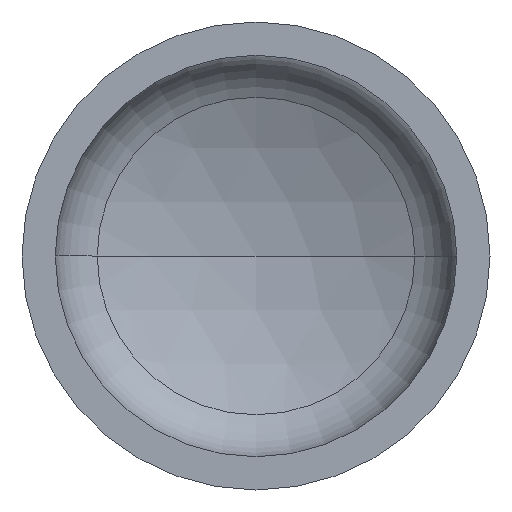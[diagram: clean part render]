
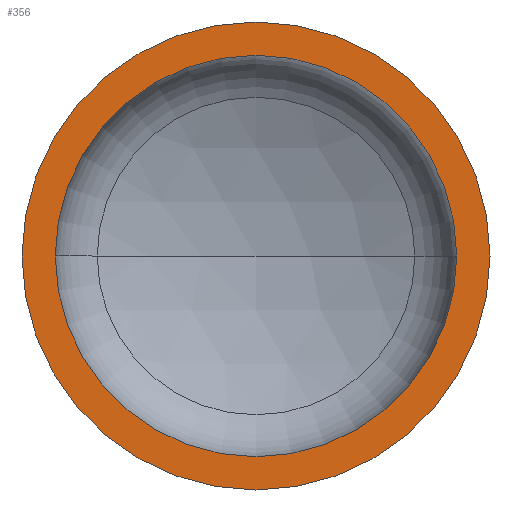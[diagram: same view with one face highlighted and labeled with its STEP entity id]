
A CAD part, front view. The second image highlights one B-rep face of the part: STEP entity #356.
In plain terms, the highlighted planar face has unit normal (0, -1, 0).
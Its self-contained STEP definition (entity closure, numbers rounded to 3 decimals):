
#2 = VERTEX_POINT ( 'NONE', #265 ) ;
#3 = ORIENTED_EDGE ( 'NONE', *, *, #303, .T. ) ;
#25 = AXIS2_PLACEMENT_3D ( 'NONE', #382, #319, #179 ) ;
#36 = VERTEX_POINT ( 'NONE', #289 ) ;
#40 = ORIENTED_EDGE ( 'NONE', *, *, #174, .T. ) ;
#47 = AXIS2_PLACEMENT_3D ( 'NONE', #186, #191, #131 ) ;
#49 = EDGE_LOOP ( 'NONE', ( #52, #86 ) ) ;
#52 = ORIENTED_EDGE ( 'NONE', *, *, #353, .F. ) ;
#53 = DIRECTION ( 'NONE',  ( 1., 0., 0. ) ) ;
#57 = DIRECTION ( 'NONE',  ( 0., -1., 0. ) ) ;
#62 = EDGE_LOOP ( 'NONE', ( #3, #40 ) ) ;
#70 = CARTESIAN_POINT ( 'NONE',  ( 0., 0., 0. ) ) ;
#84 = VERTEX_POINT ( 'NONE', #255 ) ;
#85 = CIRCLE ( 'NONE', #135, 450. ) ;
#86 = ORIENTED_EDGE ( 'NONE', *, *, #322, .F. ) ;
#97 = VERTEX_POINT ( 'NONE', #249 ) ;
#98 = AXIS2_PLACEMENT_3D ( 'NONE', #251, #250, #199 ) ;
#124 = PLANE ( 'NONE',  #25 ) ;
#131 = DIRECTION ( 'NONE',  ( 1., 0., 0. ) ) ;
#132 = AXIS2_PLACEMENT_3D ( 'NONE', #70, #57, #53 ) ;
#135 = AXIS2_PLACEMENT_3D ( 'NONE', #238, #229, #227 ) ;
#174 = EDGE_CURVE ( 'NONE', #84, #2, #85, .T. ) ;
#179 = DIRECTION ( 'NONE',  ( -1., 0., 0. ) ) ;
#186 = CARTESIAN_POINT ( 'NONE',  ( 0., 0., 0. ) ) ;
#191 = DIRECTION ( 'NONE',  ( 0., -1., 0. ) ) ;
#199 = DIRECTION ( 'NONE',  ( 1., 0., 0. ) ) ;
#227 = DIRECTION ( 'NONE',  ( 1., 0., 0. ) ) ;
#229 = DIRECTION ( 'NONE',  ( 0., -1., 0. ) ) ;
#238 = CARTESIAN_POINT ( 'NONE',  ( 0., 0., 0. ) ) ;
#249 = CARTESIAN_POINT ( 'NONE',  ( 386., 0., 0. ) ) ;
#250 = DIRECTION ( 'NONE',  ( 0., -1., 0. ) ) ;
#251 = CARTESIAN_POINT ( 'NONE',  ( 0., 0., 0. ) ) ;
#255 = CARTESIAN_POINT ( 'NONE',  ( -450., 0., 0. ) ) ;
#265 = CARTESIAN_POINT ( 'NONE',  ( 450., 0., 0. ) ) ;
#289 = CARTESIAN_POINT ( 'NONE',  ( -386., 0., 0. ) ) ;
#303 = EDGE_CURVE ( 'NONE', #2, #84, #407, .T. ) ;
#308 = CIRCLE ( 'NONE', #132, 386. ) ;
#319 = DIRECTION ( 'NONE',  ( 0., 1., 0. ) ) ;
#322 = EDGE_CURVE ( 'NONE', #36, #97, #308, .T. ) ;
#351 = FACE_OUTER_BOUND ( 'NONE', #62, .T. ) ;
#353 = EDGE_CURVE ( 'NONE', #97, #36, #357, .T. ) ;
#356 = ADVANCED_FACE ( 'NONE', ( #397, #351 ), #124, .F. ) ;
#357 = CIRCLE ( 'NONE', #47, 386. ) ;
#382 = CARTESIAN_POINT ( 'NONE',  ( -450., 0., 0. ) ) ;
#397 = FACE_BOUND ( 'NONE', #49, .T. ) ;
#407 = CIRCLE ( 'NONE', #98, 450. ) ;
